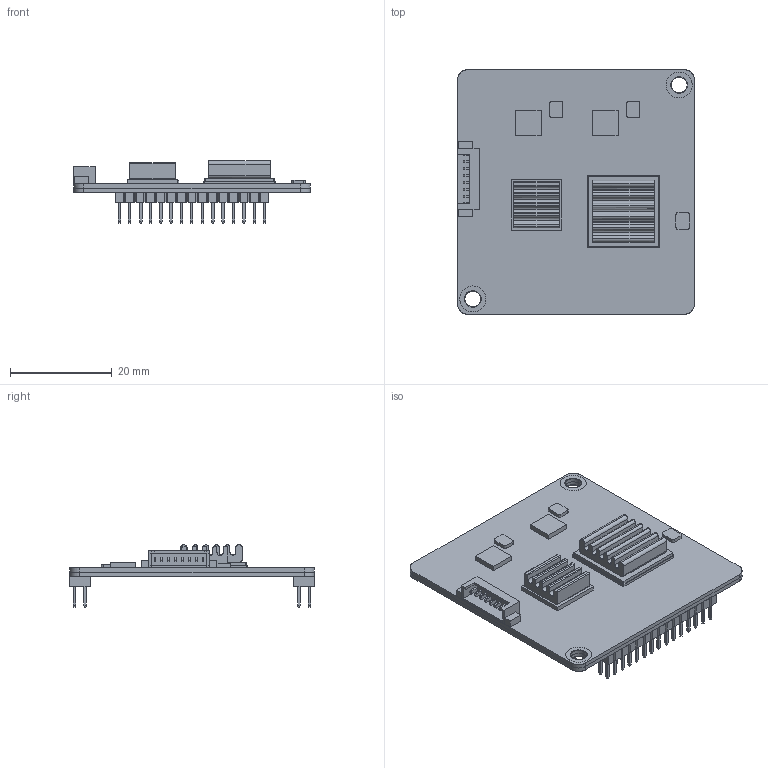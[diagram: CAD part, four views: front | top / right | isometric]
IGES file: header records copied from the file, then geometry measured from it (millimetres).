
Global section: file name: C:\Users\Administrator\Desktop\; native system: Rhinoceros ( Nov 21 2023 ); preprocessor: Trout Lake IGES 012 Nov 21 2023; date: 250325.054904; units: centimetre
Bounding box: 46.5 x 48 x 12.24 mm (x, y, z)
Surface area: 8968.9 mm2 (no closed solid volume)
Topology: 0 solids, 0 shells, 1064 faces, 7138 edges, 7114 vertices
Faces by surface type: bspline 1064
